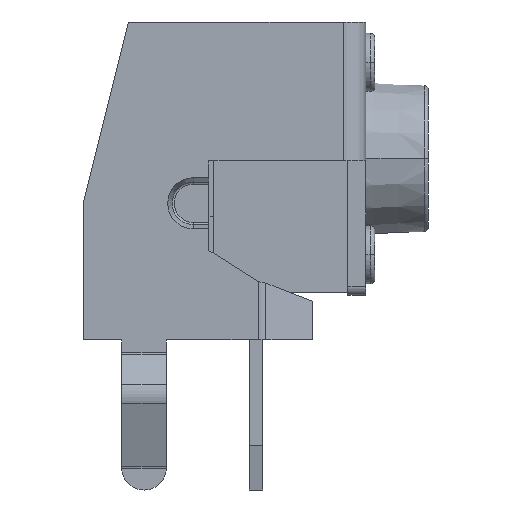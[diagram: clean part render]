
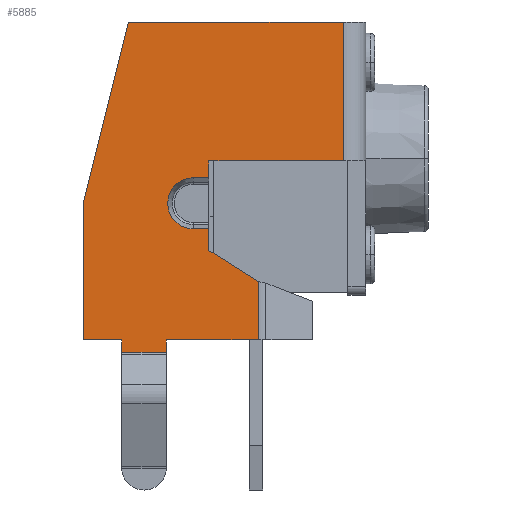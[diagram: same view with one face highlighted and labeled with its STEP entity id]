
A CAD part, left-side view. The second image highlights one B-rep face of the part: STEP entity #5885.
In plain terms, the highlighted planar face has unit normal (-1, 0, 0).
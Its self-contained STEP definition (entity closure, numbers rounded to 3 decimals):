
#3908=CARTESIAN_POINT('',(-3.75,3.45,-1.));
#3909=DIRECTION('',(-1.,0.,0.));
#3910=DIRECTION('',(0.,0.,1.));
#3911=AXIS2_PLACEMENT_3D('',#3908,#3909,#3910);
#3913=DIRECTION('',(0.,-1.,0.));
#3914=VECTOR('',#3913,0.35);
#3915=CARTESIAN_POINT('',(-3.75,3.45,-1.571));
#3916=LINE('',#3915,#3914);
#3917=DIRECTION('',(0.,0.,-1.));
#3918=VECTOR('',#3917,0.479);
#3919=CARTESIAN_POINT('',(-3.75,3.1,-1.571));
#3920=LINE('',#3919,#3918);
#3921=DIRECTION('',(0.,-0.844,-0.537));
#3922=VECTOR('',#3921,1.304);
#3923=CARTESIAN_POINT('',(-3.75,3.1,-2.05));
#3924=LINE('',#3923,#3922);
#3925=DIRECTION('',(0.,-1.,0.));
#3926=VECTOR('',#3925,2.05);
#3927=CARTESIAN_POINT('',(-3.75,4.05,-4.05));
#3928=LINE('',#3927,#3926);
#3929=DIRECTION('',(0.,-1.,0.));
#3930=VECTOR('',#3929,1.);
#3931=CARTESIAN_POINT('',(-3.75,5.05,-4.322));
#3932=LINE('',#3931,#3930);
#3933=DIRECTION('',(0.,-1.,0.));
#3934=VECTOR('',#3933,0.85);
#3935=CARTESIAN_POINT('',(-3.75,5.9,-4.05));
#3936=LINE('',#3935,#3934);
#3937=DIRECTION('',(0.,0.243,-0.97));
#3938=VECTOR('',#3937,4.123);
#3939=CARTESIAN_POINT('',(-3.75,4.9,3.05));
#3940=LINE('',#3939,#3938);
#3941=DIRECTION('',(0.,1.,0.));
#3942=VECTOR('',#3941,4.8);
#3943=CARTESIAN_POINT('',(-3.75,0.1,3.05));
#3944=LINE('',#3943,#3942);
#3945=DIRECTION('',(0.,1.,0.));
#3946=VECTOR('',#3945,3.);
#3947=CARTESIAN_POINT('',(-3.75,0.1,-0.05));
#3948=LINE('',#3947,#3946);
#3949=DIRECTION('',(0.,0.,-1.));
#3950=VECTOR('',#3949,0.379);
#3951=CARTESIAN_POINT('',(-3.75,3.1,-0.05));
#3952=LINE('',#3951,#3950);
#3953=DIRECTION('',(0.,1.,0.));
#3954=VECTOR('',#3953,0.35);
#3955=CARTESIAN_POINT('',(-3.75,3.1,-0.429));
#3956=LINE('',#3955,#3954);
#3998=DIRECTION('',(0.,0.,1.));
#3999=VECTOR('',#3998,3.1);
#4000=CARTESIAN_POINT('',(-3.75,0.1,-0.05));
#4001=LINE('',#4000,#3999);
#4028=DIRECTION('',(0.,0.,-1.));
#4029=VECTOR('',#4028,3.1);
#4030=CARTESIAN_POINT('',(-3.75,5.9,-0.95));
#4031=LINE('',#4030,#4029);
#4052=DIRECTION('',(0.,0.,-1.));
#4053=VECTOR('',#4052,0.272);
#4054=CARTESIAN_POINT('',(-3.75,5.05,-4.05));
#4055=LINE('',#4054,#4053);
#4973=DIRECTION('',(0.,0.,-1.));
#4974=VECTOR('',#4973,1.3);
#4975=CARTESIAN_POINT('',(-3.75,2.,-2.75));
#4976=LINE('',#4975,#4974);
#5052=DIRECTION('',(0.,0.,-1.));
#5053=VECTOR('',#5052,0.272);
#5054=CARTESIAN_POINT('',(-3.75,4.05,-4.05));
#5055=LINE('',#5054,#5053);
#5104=CARTESIAN_POINT('',(-3.75,0.1,3.05));
#5106=VERTEX_POINT('',#5104);
#5108=CARTESIAN_POINT('',(-3.75,0.1,-0.05));
#5110=VERTEX_POINT('',#5108);
#5120=CARTESIAN_POINT('',(-3.75,5.9,-4.05));
#5122=VERTEX_POINT('',#5120);
#5148=CARTESIAN_POINT('',(-3.75,5.05,-4.322));
#5149=CARTESIAN_POINT('',(-3.75,4.05,-4.322));
#5150=VERTEX_POINT('',#5148);
#5151=VERTEX_POINT('',#5149);
#5152=CARTESIAN_POINT('',(-3.75,4.05,-4.05));
#5153=VERTEX_POINT('',#5152);
#5154=CARTESIAN_POINT('',(-3.75,5.05,-4.05));
#5155=VERTEX_POINT('',#5154);
#5208=CARTESIAN_POINT('',(-3.75,3.1,-0.05));
#5209=VERTEX_POINT('',#5208);
#5210=CARTESIAN_POINT('',(-3.75,3.1,-2.05));
#5211=CARTESIAN_POINT('',(-3.75,2.,-2.75));
#5212=VERTEX_POINT('',#5210);
#5213=VERTEX_POINT('',#5211);
#5214=CARTESIAN_POINT('',(-3.75,2.,-4.05));
#5215=VERTEX_POINT('',#5214);
#5281=CARTESIAN_POINT('',(-3.75,4.9,3.05));
#5282=CARTESIAN_POINT('',(-3.75,5.9,-0.95));
#5283=VERTEX_POINT('',#5281);
#5284=VERTEX_POINT('',#5282);
#5414=CARTESIAN_POINT('',(-3.75,3.45,-0.429));
#5415=CARTESIAN_POINT('',(-3.75,3.45,-1.571));
#5416=VERTEX_POINT('',#5414);
#5417=VERTEX_POINT('',#5415);
#5418=CARTESIAN_POINT('',(-3.75,3.1,-1.571));
#5419=VERTEX_POINT('',#5418);
#5420=CARTESIAN_POINT('',(-3.75,3.1,-0.429));
#5421=VERTEX_POINT('',#5420);
#5846=CARTESIAN_POINT('',(-3.75,-0.4,3.05));
#5847=DIRECTION('',(-1.,0.,0.));
#5848=DIRECTION('',(0.,0.,1.));
#5849=AXIS2_PLACEMENT_3D('',#5846,#5847,#5848);
#5850=PLANE('',#5849);
#5852=ORIENTED_EDGE('',*,*,#5851,.T.);
#5853=ORIENTED_EDGE('',*,*,#5836,.T.);
#5855=ORIENTED_EDGE('',*,*,#5854,.T.);
#5857=ORIENTED_EDGE('',*,*,#5856,.T.);
#5859=ORIENTED_EDGE('',*,*,#5858,.T.);
#5861=ORIENTED_EDGE('',*,*,#5860,.F.);
#5863=ORIENTED_EDGE('',*,*,#5862,.T.);
#5864=ORIENTED_EDGE('',*,*,#5713,.F.);
#5866=ORIENTED_EDGE('',*,*,#5865,.F.);
#5868=ORIENTED_EDGE('',*,*,#5867,.F.);
#5870=ORIENTED_EDGE('',*,*,#5869,.F.);
#5872=ORIENTED_EDGE('',*,*,#5871,.F.);
#5874=ORIENTED_EDGE('',*,*,#5873,.F.);
#5876=ORIENTED_EDGE('',*,*,#5875,.F.);
#5878=ORIENTED_EDGE('',*,*,#5877,.T.);
#5880=ORIENTED_EDGE('',*,*,#5879,.T.);
#5882=ORIENTED_EDGE('',*,*,#5881,.T.);
#5883=EDGE_LOOP('',(#5852,#5853,#5855,#5857,#5859,#5861,#5863,#5864,#5866,#5868,
#5870,#5872,#5874,#5876,#5878,#5880,#5882));
#5884=FACE_OUTER_BOUND('',#5883,.F.);
#3912=CIRCLE('',#3911,0.571);
#5713=EDGE_CURVE('',#5150,#5151,#3932,.T.);
#5836=EDGE_CURVE('',#5417,#5419,#3916,.T.);
#5851=EDGE_CURVE('',#5416,#5417,#3912,.T.);
#5854=EDGE_CURVE('',#5419,#5212,#3920,.T.);
#5856=EDGE_CURVE('',#5212,#5213,#3924,.T.);
#5858=EDGE_CURVE('',#5213,#5215,#4976,.T.);
#5860=EDGE_CURVE('',#5153,#5215,#3928,.T.);
#5862=EDGE_CURVE('',#5153,#5151,#5055,.T.);
#5865=EDGE_CURVE('',#5155,#5150,#4055,.T.);
#5867=EDGE_CURVE('',#5122,#5155,#3936,.T.);
#5869=EDGE_CURVE('',#5284,#5122,#4031,.T.);
#5871=EDGE_CURVE('',#5283,#5284,#3940,.T.);
#5873=EDGE_CURVE('',#5106,#5283,#3944,.T.);
#5875=EDGE_CURVE('',#5110,#5106,#4001,.T.);
#5877=EDGE_CURVE('',#5110,#5209,#3948,.T.);
#5879=EDGE_CURVE('',#5209,#5421,#3952,.T.);
#5881=EDGE_CURVE('',#5421,#5416,#3956,.T.);
#5885=ADVANCED_FACE('',(#5884),#5850,.T.);
